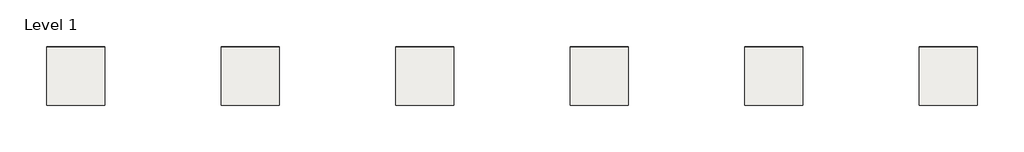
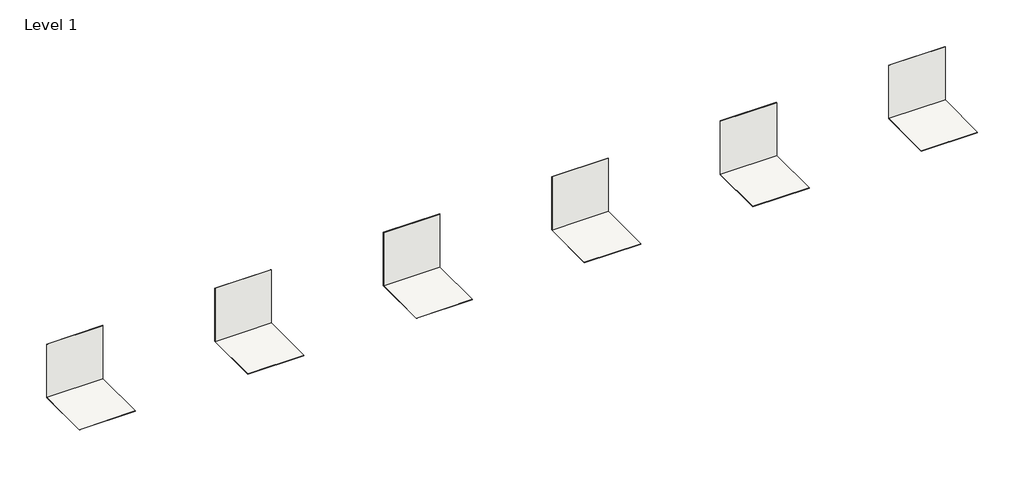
# One storey: 12 coverings.
"""IFC4 building model written with IfcOpenShell, lengths in millimetres."""

from ifc_helpers import new_model, si_unit, frame, origin, origin_with_axes, place, context, project, spatial, polyline, outline, extrude, element, save

model = new_model("IFC4")

# Units and contexts
model_context = context("Model", 3, world=origin())
ifc_project = project(units=[si_unit("LENGTHUNIT", "METRE", prefix="MILLI")], contexts=[model_context])

# Site, building, storey
site = spatial("IfcSite", under=ifc_project)
building = spatial("IfcBuilding", under=site)
storey = spatial("IfcBuildingStorey", under=building, Name="Level 1", Elevation=0.0)

# Coverings
placement = place(None, origin())
element("IfcCovering", 1, ObjectType="REVIGRES-URBAN-DECOR-29.5X29.5-RECT-STRATUS 36-ANTRACITE", at=placement, inside=storey, context=model_context, shape_type="SweptSolid", body=[
    extrude(outline(polyline([(3778.642714, -1191.9242026), (2778.642714, -1191.9242026), (2778.642714, -1184.2242026), (3778.642714, -1184.2242026), (3778.642714, -1191.9242026)])), origin_with_axes(), (0.0, 0.0, 1.0), 1000.0),
])
element("IfcCovering", 2, ObjectType="REVIGRES-URBAN-DECOR-29.5X29.5-RECT-STRATUS 36-ANTRACITE", at=placement, inside=storey, context=model_context, shape_type="SweptSolid", body=[
    extrude(outline(polyline([(3778.642714, -1191.9242026), (3778.642714, -2191.9242026), (2778.642714, -2191.9242026), (2778.642714, -1191.9242026), (3778.642714, -1191.9242026)])), frame((0.0, 0.0, -7.7), z_axis=(0.0, 0.0, 1.0), x_axis=(1.0, 0.0, 0.0)), (0.0, 0.0, 1.0), 7.7),
])
element("IfcCovering", 3, ObjectType="REVIGRES-URBAN-DECOR-29.5X29.5-RECT-STRATUS 36-BONE", at=placement, inside=storey, context=model_context, shape_type="SweptSolid", body=[
    extrude(outline(polyline([(6778.642714, -1191.9242026), (5778.642714, -1191.9242026), (5778.642714, -1184.2242026), (6778.642714, -1184.2242026), (6778.642714, -1191.9242026)])), origin_with_axes(), (0.0, 0.0, 1.0), 1000.0),
])
element("IfcCovering", 4, ObjectType="REVIGRES-URBAN-DECOR-29.5X29.5-RECT-STRATUS 36-BONE", at=placement, inside=storey, context=model_context, shape_type="SweptSolid", body=[
    extrude(outline(polyline([(6778.642714, -1191.9242026), (6778.642714, -2191.9242026), (5778.642714, -2191.9242026), (5778.642714, -1191.9242026), (6778.642714, -1191.9242026)])), frame((0.0, 0.0, -7.7), z_axis=(0.0, 0.0, 1.0), x_axis=(1.0, 0.0, 0.0)), (0.0, 0.0, 1.0), 7.7),
])
element("IfcCovering", 5, ObjectType="REVIGRES-URBAN-DECOR-29.5X29.5-RECT-STRATUS 36-CRAFT", at=placement, inside=storey, context=model_context, shape_type="SweptSolid", body=[
    extrude(outline(polyline([(9778.642714, -1191.9242026), (8778.642714, -1191.9242026), (8778.642714, -1184.2242026), (9778.642714, -1184.2242026), (9778.642714, -1191.9242026)])), origin_with_axes(), (0.0, 0.0, 1.0), 1000.0),
])
element("IfcCovering", 6, ObjectType="REVIGRES-URBAN-DECOR-29.5X29.5-RECT-STRATUS 36-CRAFT", at=placement, inside=storey, context=model_context, shape_type="SweptSolid", body=[
    extrude(outline(polyline([(9778.642714, -1191.9242026), (9778.642714, -2191.9242026), (8778.642714, -2191.9242026), (8778.642714, -1191.9242026), (9778.642714, -1191.9242026)])), frame((0.0, 0.0, -7.7), z_axis=(0.0, 0.0, 1.0), x_axis=(1.0, 0.0, 0.0)), (0.0, 0.0, 1.0), 7.7),
])
element("IfcCovering", 7, ObjectType="REVIGRES-URBAN-DECOR-29.5X29.5-RECT-STRATUS 36-FOG", at=placement, inside=storey, context=model_context, shape_type="SweptSolid", body=[
    extrude(outline(polyline([(12778.642714, -1191.9242026), (11778.642714, -1191.9242026), (11778.642714, -1184.2242026), (12778.642714, -1184.2242026), (12778.642714, -1191.9242026)])), origin_with_axes(), (0.0, 0.0, 1.0), 1000.0),
])
element("IfcCovering", 8, ObjectType="REVIGRES-URBAN-DECOR-29.5X29.5-RECT-STRATUS 36-FOG", at=placement, inside=storey, context=model_context, shape_type="SweptSolid", body=[
    extrude(outline(polyline([(12778.642714, -1191.9242026), (12778.642714, -2191.9242026), (11778.642714, -2191.9242026), (11778.642714, -1191.9242026), (12778.642714, -1191.9242026)])), frame((0.0, 0.0, -7.7), z_axis=(0.0, 0.0, 1.0), x_axis=(1.0, 0.0, 0.0)), (0.0, 0.0, 1.0), 7.7),
])
element("IfcCovering", 9, ObjectType="REVIGRES-URBAN-DECOR-29.5X29.5-RECT-STRATUS 36-GRIS", at=placement, inside=storey, context=model_context, shape_type="SweptSolid", body=[
    extrude(outline(polyline([(15778.642714, -1191.9242026), (14778.642714, -1191.9242026), (14778.642714, -1184.2242026), (15778.642714, -1184.2242026), (15778.642714, -1191.9242026)])), origin_with_axes(), (0.0, 0.0, 1.0), 1000.0),
])
element("IfcCovering", 10, ObjectType="REVIGRES-URBAN-DECOR-29.5X29.5-RECT-STRATUS 36-GRIS", at=placement, inside=storey, context=model_context, shape_type="SweptSolid", body=[
    extrude(outline(polyline([(15778.642714, -1191.9242026), (15778.642714, -2191.9242026), (14778.642714, -2191.9242026), (14778.642714, -1191.9242026), (15778.642714, -1191.9242026)])), frame((0.0, 0.0, -7.7), z_axis=(0.0, 0.0, 1.0), x_axis=(1.0, 0.0, 0.0)), (0.0, 0.0, 1.0), 7.7),
])
element("IfcCovering", 11, ObjectType="REVIGRES-URBAN-DECOR-29.5X29.5-RECT-STRATUS 36-OFFWHITE", at=placement, inside=storey, context=model_context, shape_type="SweptSolid", body=[
    extrude(outline(polyline([(18778.642714, -1191.9242026), (17778.642714, -1191.9242026), (17778.642714, -1184.2242026), (18778.642714, -1184.2242026), (18778.642714, -1191.9242026)])), origin_with_axes(), (0.0, 0.0, 1.0), 1000.0),
])
element("IfcCovering", 12, ObjectType="REVIGRES-URBAN-DECOR-29.5X29.5-RECT-STRATUS 36-OFFWHITE", at=placement, inside=storey, context=model_context, shape_type="SweptSolid", body=[
    extrude(outline(polyline([(18778.642714, -1191.9242026), (18778.642714, -2191.9242026), (17778.642714, -2191.9242026), (17778.642714, -1191.9242026), (18778.642714, -1191.9242026)])), frame((0.0, 0.0, -7.7), z_axis=(0.0, 0.0, 1.0), x_axis=(1.0, 0.0, 0.0)), (0.0, 0.0, 1.0), 7.7),
])

save(model, "model.ifc")
